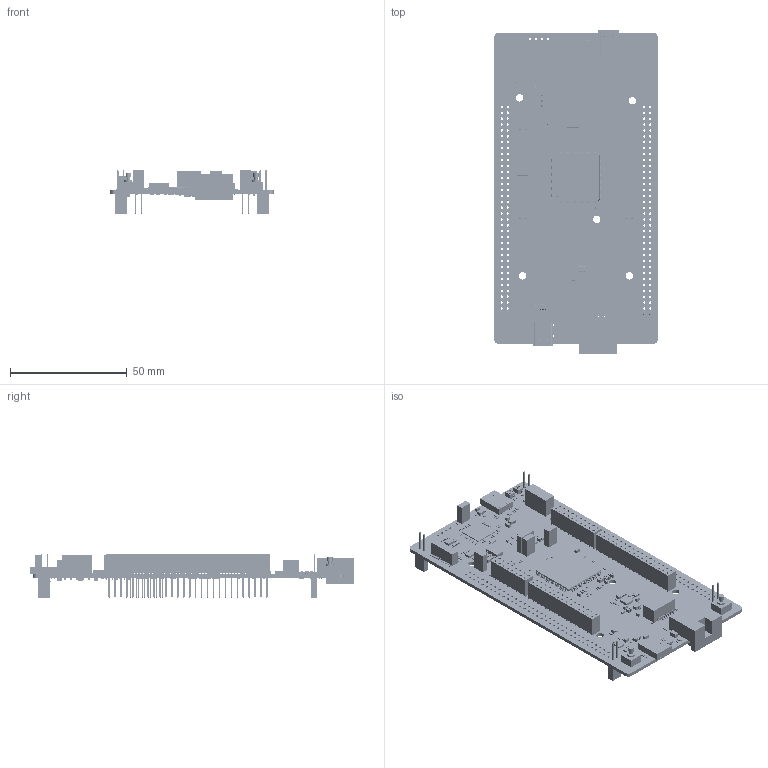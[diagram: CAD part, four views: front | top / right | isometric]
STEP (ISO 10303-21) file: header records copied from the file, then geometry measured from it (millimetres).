
FILE_DESCRIPTION(('Open CASCADE Model'),'2;1');
FILE_NAME('Open CASCADE Shape Model','2023-02-22T11:26:58',('Author'),( 'Open CASCADE'),'Open CASCADE STEP processor 6.8','Open CASCADE 6.8' ,'Unknown');
FILE_SCHEMA(('AUTOMOTIVE_DESIGN { 1 0 10303 214 1 1 1 1 }'));
Length unit declared in the file: millimetre
Products named in the file (557): PCB; Board; Open CASCADE STEP translator 6.8 1.1.1; U5; 0201; 6366552720; Extruded; R100; R0402; 6366551840; R99; R98; R97; R89; CN13; WURTH_ELEKTRONIK_USB_TYPE-C_632723300011_STP; 632723300011_Housing; 632723300011_Shielding_3_v3; 632723300011_PIN2_Top_v3; 632723300011_Housing_TOP; 632723300011_Shielding_1_v3; 632723300011_PIN1_Top_v3; 632723300011_Housing_Bottom; 632723300011_PIN1_Bottom_v3; 632723300011_PIN2_Bottom_v3; 632723300011_PIN4_Bottom_v3; 632723300011_PIN5_Bottom_v3; 632723300011_PIN6_Bottom_v3; 632723300011_PIN7_Bottom_v3; 632723300011_Shielding_2; 632723300011_PIN1_Bottom_v3_mir; 632723300011_PIN4_Bottom_v3_mir; 632723300011_PIN6_Bottom_v3_mir; 632723300011_PIN2_Bottom_v3_mir; 632723300011_PIN5_Bottom_v3_mir; 632723300011_PIN7_Bottom_v3_mir; 632723300011_Housing_Bottom3; 6366554080; U4; SOT323-5L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
Assembly tree (1376 placements, depth 4):
  PCB
    Board
      Open CASCADE STEP translator 6.8 1.1.1
    U5
      0201
      6366552720
        Extruded
    R100
      R0402
      6366551840
        Extruded
    R99
      R0402
      6366551840
        Extruded
    R98
      R0402
      6366551840
        Extruded
    R97
      R0402
      6366551840
        Extruded
    R89
      R0402
      6366551840
        Extruded
    CN13
      WURTH_ELEKTRONIK_USB_TYPE-C_632723300011_STP
        632723300011_Housing
        632723300011_Shielding_3_v3
        632723300011_PIN2_Top_v3  x8
        632723300011_Housing_TOP
        632723300011_Shielding_1_v3
        632723300011_PIN1_Top_v3  x4
        632723300011_Housing_Bottom
        632723300011_PIN1_Bottom_v3
        632723300011_PIN2_Bottom_v3
        632723300011_PIN4_Bottom_v3
        632723300011_PIN5_Bottom_v3
        632723300011_PIN6_Bottom_v3
        632723300011_PIN7_Bottom_v3
        632723300011_Shielding_2  x2
        632723300011_PIN1_Bottom_v3_mir
        632723300011_PIN4_Bottom_v3_mir
        632723300011_PIN6_Bottom_v3_mir
        632723300011_PIN2_Bottom_v3_mir
        632723300011_PIN5_Bottom_v3_mir
        632723300011_PIN7_Bottom_v3_mir
        632723300011_Housing_Bottom3
      6366554080
        Extruded
    U4
      SOT323-5L
      6401089152
        Extruded
    SB83
      R0402
      6365631712
        Extruded
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Bounding box: 70 x 138.37 x 18.57 mm (x, y, z)
Volume: 27216 mm3; surface area: 45954.3 mm2
Topology: 1367 solids, 1388 shells, 55179 faces, 131811 edges, 76257 vertices
Faces by surface type: plane 22809, cylinder 15507, bspline 9772, sphere 5667, torus 966, revolution 456, cone 2
Full cylindrical faces by diameter (mm): 0.2 x1, 0.3 x1, 0.4 x56, 0.5 x1, 0.6 x1, 0.7 x12, 1 x273, 1.5 x2, 1.6 x2, 2.4 x2, 3.2 x5, 3.5 x2
Entity records: 358818 total; most frequent: CARTESIAN_POINT 76652, ORIENTED_EDGE 50530, DIRECTION 48982, EDGE_CURVE 25267, LINE 20940, VECTOR 20940, VERTEX_POINT 16285, AXIS2_PLACEMENT_3D 14017
